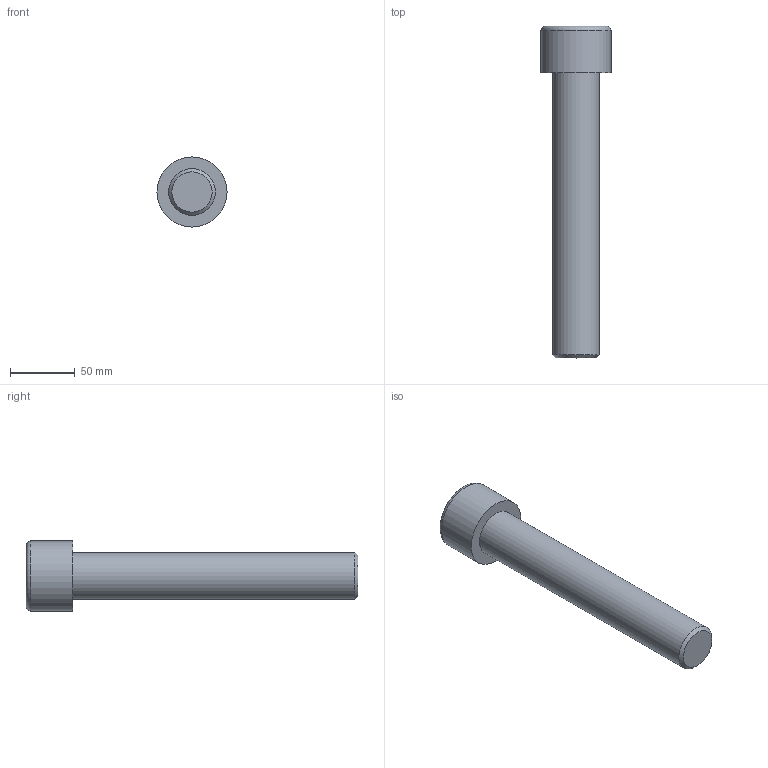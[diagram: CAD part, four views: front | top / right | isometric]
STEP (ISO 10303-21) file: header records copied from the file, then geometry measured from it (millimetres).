
FILE_DESCRIPTION(/* description */ (''),/* implementation_level */ '2;1');
FILE_NAME(/* name */ 'C:\Users\D\Documents\Inventor\各種小物\JIS\JIS B 1176 六角穴付きボルト\M36x220.stp',/* time_stamp */ '2022-05-09T19:03:56+09:00',/* author */ ('D'),/* organization */ (''),/* preprocessor_version */ 'ST-DEVELOPER v18',/* originating_system */ 'Autodesk Inventor 2020',/* authorisation */ '');
FILE_SCHEMA (('AUTOMOTIVE_DESIGN { 1 0 10303 214 3 1 1 }'));
Length unit declared in the file: millimetre
Products named in the file (1): M1.6x2.5
Bounding box: 54 x 256 x 54 mm (x, y, z)
Volume: 291376.1 mm3; surface area: 37079.9 mm2
Topology: 1 solids, 1 shells, 14 faces, 33 edges, 22 vertices
Faces by surface type: plane 9, cone 2, cylinder 2, torus 1
Full cylindrical faces by diameter (mm): 36 x1, 54 x1
Entity records: 435 total; most frequent: CARTESIAN_POINT 83, ORIENTED_EDGE 64, DIRECTION 64, EDGE_CURVE 32, AXIS2_PLACEMENT_3D 24, VERTEX_POINT 22, EDGE_LOOP 16, LINE 16
